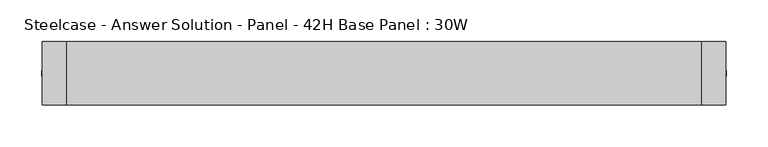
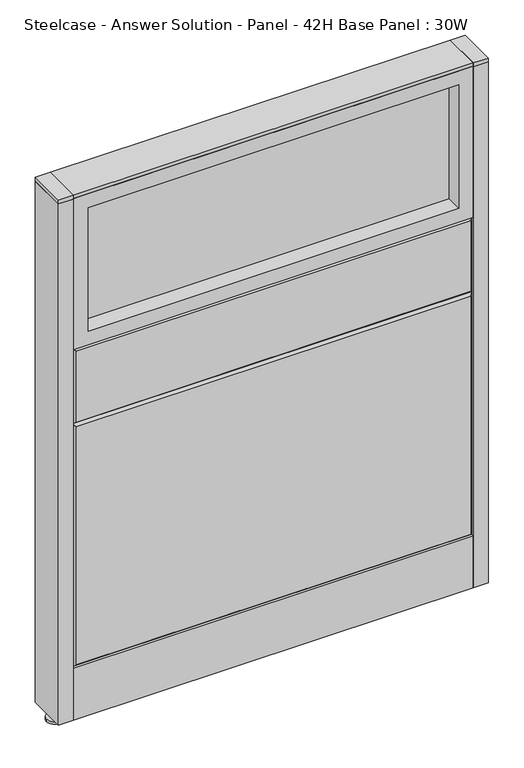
"""IFC4 building model written with IfcOpenShell, lengths in millimetres: furniture geometry, Steelcase - Answer Solution - Panel - 42H Base Panel : 30W."""

import ifcopenshell
import ifcopenshell.guid

model = None  # the IFC model being written
_history = None  # IfcOwnerHistory: only IFC2X3 demands one
_inside = {}  # id of a spatial element -> (the spatial element, [elements in it])
_under = {}  # id of a project, library or spatial element -> (it, [spatial elements below it])
_declared = {}  # id of a project -> (the project, [libraries it declares])
_typed = {}  # id of a type object -> (the type object, [elements of that type])
_made_of = {}  # id of a material, layer set ... -> (it, [elements and type objects made of it])


def new_model(schema):
    """Start an empty IFC model of exactly this schema.

    Asked for "IFC4X3", IfcOpenShell would pick the latest addendum, in which some entities
    have other attributes; the version numbers below select the first issue.
    IFC2X3 requires an IfcOwnerHistory on every rooted entity: one is made here for all.
    """
    global model, _history
    if schema == "IFC4X3":
        model = ifcopenshell.file(schema_version=(4, 3, 0, 0))
    else:
        model = ifcopenshell.file(schema=schema)
    _inside.clear()
    _under.clear()
    _declared.clear()
    _typed.clear()
    _made_of.clear()
    _history = None
    if model.schema == "IFC2X3":
        org = make("IfcOrganization", Name="unknown")
        user = make(
            "IfcPersonAndOrganization",
            ThePerson=make("IfcPerson", FamilyName="unknown"),
            TheOrganization=org,
        )
        app = make(
            "IfcApplication",
            ApplicationDeveloper=org,
            Version="unknown",
            ApplicationFullName="unknown",
            ApplicationIdentifier="unknown",
        )
        _history = make(
            "IfcOwnerHistory",
            OwningUser=user,
            OwningApplication=app,
            ChangeAction="ADDED",
            CreationDate=0,
        )
    return model


def make(cls, **values):
    """One entity of the class cls with the attributes given. An attribute that is None is left unset."""
    return model.create_entity(
        cls, **{name: value for name, value in values.items() if value is not None}
    )


def rooted(cls, **values):
    """An entity with a GlobalId (a new one), such as an element, a storey or a relation."""
    return make(cls, GlobalId=ifcopenshell.guid.new(), OwnerHistory=_history, **values)


def si_unit(unit_type, name, prefix=None):
    """IfcSIUnit, for example si_unit("LENGTHUNIT", "METRE", prefix="MILLI")."""
    return make("IfcSIUnit", UnitType=unit_type, Prefix=prefix, Name=name)


def assignment(units):
    """IfcUnitAssignment: the units of a project."""
    return None if units is None else make("IfcUnitAssignment", Units=units)


def point(xyz):
    """IfcCartesianPoint."""
    return None if xyz is None else make("IfcCartesianPoint", Coordinates=xyz)


def direction(xyz):
    """IfcDirection."""
    return None if xyz is None else make("IfcDirection", DirectionRatios=xyz)


def frame(location, z_axis=None, x_axis=None):
    """IfcAxis2Placement3D, a coordinate frame: its origin and axes. An axis left out is left unset."""
    return make(
        "IfcAxis2Placement3D",
        Location=point(location),
        Axis=direction(z_axis),
        RefDirection=direction(x_axis),
    )


def frame_2d(location, x_axis=None):
    """IfcAxis2Placement2D, a coordinate frame in the plane: its origin and x axis."""
    return make(
        "IfcAxis2Placement2D", Location=point(location), RefDirection=direction(x_axis)
    )


def origin():
    """The frame at (0, 0, 0) with its axes left unset."""
    return frame((0.0, 0.0, 0.0))


def place(relative_to, where):
    """IfcLocalPlacement: puts the frame where relative to a parent placement (None: the world)."""
    return make(
        "IfcLocalPlacement", PlacementRelTo=relative_to, RelativePlacement=where
    )


def context(
    kind, dimensions, precision=None, world=None, true_north=None, identifier=None
):
    """IfcGeometricRepresentationContext, for example the 3D "Model" context."""
    return make(
        "IfcGeometricRepresentationContext",
        ContextIdentifier=identifier,
        ContextType=kind,
        CoordinateSpaceDimension=dimensions,
        Precision=precision,
        WorldCoordinateSystem=world,
        TrueNorth=true_north,
    )


def project(units=None, contexts=None):
    """IfcProject with its units and contexts."""
    return rooted(
        "IfcProject",
        Name="project",
        RepresentationContexts=contexts,
        UnitsInContext=assignment(units),
    )


def spatial(cls, under=None, at=None, **own):
    """A site, building, storey or space (cls), placed at a placement, below another one or the project."""
    s = rooted(cls, ObjectPlacement=at, **own)
    if under is not None:
        _under.setdefault(under.id(), (under, []))[1].append(s)
    return s


def polyline(points):
    """IfcPolyline through the points."""
    return make("IfcPolyline", Points=[point(p) for p in points])


def circle_curve(where, radius):
    """IfcCircle in the frame where."""
    return make("IfcCircle", Position=where, Radius=radius)


def trimmed(basis, trim1, trim2, sense, master):
    """IfcTrimmedCurve: the piece of a basis curve between two trims."""
    return make(
        "IfcTrimmedCurve",
        BasisCurve=basis,
        Trim1=trim1,
        Trim2=trim2,
        SenseAgreement=sense,
        MasterRepresentation=master,
    )


def segment(curve, same_sense, transition):
    """IfcCompositeCurveSegment."""
    return make(
        "IfcCompositeCurveSegment",
        Transition=transition,
        SameSense=same_sense,
        ParentCurve=curve,
    )


def composite_curve(segments, self_intersect=None):
    """IfcCompositeCurve: segments joined end to end."""
    return make("IfcCompositeCurve", Segments=segments, SelfIntersect=self_intersect)


def outline(outer, holes=None, kind="AREA"):
    """IfcArbitraryClosedProfileDef: a profile drawn as a closed curve; with holes, ...WithVoids."""
    if holes is None:
        return make("IfcArbitraryClosedProfileDef", ProfileType=kind, OuterCurve=outer)
    return make(
        "IfcArbitraryProfileDefWithVoids",
        ProfileType=kind,
        OuterCurve=outer,
        InnerCurves=holes,
    )


def extrude(swept, where, along, depth):
    """IfcExtrudedAreaSolid: the profile swept, set in the frame where, extruded along a direction by depth."""
    return make(
        "IfcExtrudedAreaSolid",
        SweptArea=swept,
        Position=where,
        ExtrudedDirection=direction(along),
        Depth=depth,
    )


def faces_of(points, faces, orient=None, outer=None):
    """IfcFace entities. A face is a list of loops; a loop is a list of indices into points, from 0.

    orient and outer hold one flag for each loop. By default every Orientation is true, the
    first loop of a face is its IfcFaceOuterBound and the others are IfcFaceBound.
    """
    made = []
    for i, loops in enumerate(faces):
        bounds = []
        for j, loop in enumerate(loops):
            is_outer = j == 0 if outer is None else outer[i][j]
            bounds.append(
                make(
                    "IfcFaceOuterBound" if is_outer else "IfcFaceBound",
                    Bound=make("IfcPolyLoop", Polygon=[points[k] for k in loop]),
                    Orientation=True if orient is None else orient[i][j],
                )
            )
        made.append(make("IfcFace", Bounds=bounds))
    return made


def faceted_brep(points, faces, orient=None, outer=None, voids=None):
    """IfcFacetedBrep: a solid bounded by flat faces; with voids (closed shells), ...WithVoids."""
    shared = [point(p) for p in points]
    hull = make("IfcClosedShell", CfsFaces=faces_of(shared, faces, orient, outer))
    if voids is None:
        return make("IfcFacetedBrep", Outer=hull)
    return make(
        "IfcFacetedBrepWithVoids",
        Outer=hull,
        Voids=[
            make(cls, CfsFaces=faces_of(shared, fs, o, b)) for cls, fs, o, b in voids
        ],
    )


def shape(context_of_items, identifier, shape_type, items):
    """IfcShapeRepresentation: the items that make up one representation, for example the "Body"."""
    return make(
        "IfcShapeRepresentation",
        ContextOfItems=context_of_items,
        RepresentationIdentifier=identifier,
        RepresentationType=shape_type,
        Items=items,
    )


def source(mapping_origin, context_of_items, identifier, shape_type, items):
    """IfcRepresentationMap: a shape defined once, which mapped items show again and again."""
    return make(
        "IfcRepresentationMap",
        MappingOrigin=mapping_origin,
        MappedRepresentation=shape(context_of_items, identifier, shape_type, items),
    )


def transform(
    local_origin,
    x_axis=None,
    y_axis=None,
    z_axis=None,
    scale=None,
    scale2=None,
    scale3=None,
    uniform=True,
):
    """IfcCartesianTransformationOperator3D, or its non-uniform kind. x_axis, y_axis, z_axis: its Axis1, 2, 3."""
    if uniform:
        return make(
            "IfcCartesianTransformationOperator3D",
            Axis1=direction(x_axis),
            Axis2=direction(y_axis),
            LocalOrigin=point(local_origin),
            Scale=scale,
            Axis3=direction(z_axis),
        )
    return make(
        "IfcCartesianTransformationOperator3DnonUniform",
        Axis1=direction(x_axis),
        Axis2=direction(y_axis),
        LocalOrigin=point(local_origin),
        Scale=scale,
        Axis3=direction(z_axis),
        Scale2=scale2,
        Scale3=scale3,
    )


def mapped(mapping_source, mapping_target):
    """IfcMappedItem: shows the shape of a source again, moved by a transform."""
    return make(
        "IfcMappedItem", MappingSource=mapping_source, MappingTarget=mapping_target
    )


def made_of(thing, what):
    """Note that an element or type object is made of a material, layer set ...; save() writes the relation."""
    if what is not None:
        _made_of.setdefault(what.id(), (what, []))[1].append(thing)
    return thing


def element(
    cls,
    number,
    at=None,
    inside=None,
    cuts=None,
    type_object=None,
    material=None,
    context=None,
    identifier="Body",
    shape_type=None,
    held_by="IfcProductDefinitionShape",
    body=None,
    shapes=None,
    **own,
):
    """One element of the class cls, such as IfcWall. Its Tag is "e" and its number.

    at: its placement. inside: the storey or other place that contains it. cuts: it is an
    opening in that element (IfcRelVoidsElement). A single representation is given by context,
    identifier, shape_type and body (its items); several are given by shapes. held_by: the class
    of the entity that holds the representations. save() writes the other relations.
    """
    e = rooted(cls, Tag="e%d" % number, ObjectPlacement=at, **own)
    if body is not None:
        shapes = [shape(context, identifier, shape_type, body)]
    if shapes is not None:
        e.Representation = make(held_by, Representations=shapes)
    if inside is not None:
        _inside.setdefault(inside.id(), (inside, []))[1].append(e)
    if cuts is not None:
        rooted(
            "IfcRelVoidsElement", RelatingBuildingElement=cuts, RelatedOpeningElement=e
        )
    if type_object is not None:
        _typed.setdefault(type_object.id(), (type_object, []))[1].append(e)
    return made_of(e, material)


def aggregate(whole, parts):
    """IfcRelAggregates: a whole, such as a stair, and the parts it consists of."""
    return rooted("IfcRelAggregates", RelatingObject=whole, RelatedObjects=parts)


def save(model, path):
    """Write the relations noted so far, then the file.

    IfcRelAggregates (storeys below a building ...), IfcRelContainedInSpatialStructure (elements
    in a storey), IfcRelDefinesByType, IfcRelAssociatesMaterial and IfcRelDeclares: one each for
    every whole, place, type object, material and project.
    """
    for whole, parts in _under.values():
        aggregate(whole, parts)
    for where, things in _inside.values():
        rooted(
            "IfcRelContainedInSpatialStructure",
            RelatedElements=things,
            RelatingStructure=where,
        )
    for kind, things in _typed.values():
        rooted("IfcRelDefinesByType", RelatedObjects=things, RelatingType=kind)
    for what, things in _made_of.values():
        rooted("IfcRelAssociatesMaterial", RelatedObjects=things, RelatingMaterial=what)
    for by, libraries in _declared.values():
        rooted("IfcRelDeclares", RelatingContext=by, RelatedDefinitions=libraries)
    model.write(path)


def steelcase_answer_solution_panel_42h_base_panel_30w_81901d30(model_context):
    return source(origin(), model_context, "Body", "SolidModel", [
        extrude(outline(composite_curve([segment(trimmed(circle_curve(frame_2d((395.224, 0.0039657)), 5.08), [point((400.304, 0.0039657))], [point((390.144, 0.0039657))], False, "CARTESIAN"), True, "CONTINUOUS"), segment(trimmed(circle_curve(frame_2d((395.224, 0.0039657)), 5.08), [point((390.144, 0.0039657))], [point((400.304, 0.0039657))], False, "CARTESIAN"), True, "CONTINUOUS")], self_intersect=False)), frame((0.0, 0.0, 5.0799671), z_axis=(0.0, 0.0, 1.0), x_axis=(1.0, 0.0, 0.0)), (0.0, 0.0, 1.0), 10.414),
        extrude(outline(composite_curve([segment(trimmed(circle_curve(frame_2d((395.224, 0.0039657)), 15.24), [point((410.464, 0.0039657))], [point((379.984, 0.0039657))], False, "CARTESIAN"), True, "CONTINUOUS"), segment(trimmed(circle_curve(frame_2d((395.224, 0.0039657)), 15.24), [point((379.984, 0.0039657))], [point((410.464, 0.0039657))], False, "CARTESIAN"), True, "CONTINUOUS")], self_intersect=False)), frame((0.0, 0.0, -3.29e-05), z_axis=(0.0, 0.0, 1.0), x_axis=(1.0, 0.0, 0.0)), (0.0, 0.0, 1.0), 5.08),
        extrude(outline(polyline([(409.575, 38.1039851), (409.575, -38.0960149), (381.0, -38.0960149), (381.0, 38.1039851), (409.575, 38.1039851)])), frame((0.0, 0.0, 1065.8348), z_axis=(0.0, 0.0, 1.0), x_axis=(1.0, 0.0, 0.0)), (0.0, 0.0, 1.0), 7.3151671),
        extrude(outline(polyline([(409.575, 38.1039851), (409.575, -38.0960149), (381.0, -38.0960149), (381.0, 38.1039851), (409.575, 38.1039851)])), frame((0.0, 0.0, 15.4939671), z_axis=(0.0, 0.0, 1.0), x_axis=(1.0, 0.0, 0.0)), (0.0, 0.0, 1.0), 1050.3408329),
        extrude(outline(composite_curve([segment(trimmed(circle_curve(frame_2d((-395.224, 0.0039657)), 5.08), [point((-400.304, 0.0039657))], [point((-390.144, 0.0039657))], False, "CARTESIAN"), True, "CONTINUOUS"), segment(trimmed(circle_curve(frame_2d((-395.224, 0.0039657)), 5.08), [point((-390.144, 0.0039657))], [point((-400.304, 0.0039657))], False, "CARTESIAN"), True, "CONTINUOUS")], self_intersect=False)), frame((0.0, 0.0, 5.0799671), z_axis=(0.0, 0.0, 1.0), x_axis=(1.0, 0.0, 0.0)), (0.0, 0.0, 1.0), 10.414),
        extrude(outline(composite_curve([segment(trimmed(circle_curve(frame_2d((-395.224, 0.0039657)), 15.24), [point((-410.464, 0.0039657))], [point((-379.984, 0.0039657))], False, "CARTESIAN"), True, "CONTINUOUS"), segment(trimmed(circle_curve(frame_2d((-395.224, 0.0039657)), 15.24), [point((-379.984, 0.0039657))], [point((-410.464, 0.0039657))], False, "CARTESIAN"), True, "CONTINUOUS")], self_intersect=False)), frame((0.0, 0.0, -3.29e-05), z_axis=(0.0, 0.0, 1.0), x_axis=(1.0, 0.0, 0.0)), (0.0, 0.0, 1.0), 5.08),
        extrude(outline(polyline([(-409.575, 38.1039851), (-381.0, 38.1039851), (-381.0, -38.0960149), (-409.575, -38.0960149), (-409.575, 38.1039851)])), frame((0.0, 0.0, 1065.8348), z_axis=(0.0, 0.0, 1.0), x_axis=(1.0, 0.0, 0.0)), (0.0, 0.0, 1.0), 7.3151671),
        extrude(outline(polyline([(-409.575, 38.1039851), (-381.0, 38.1039851), (-381.0, -38.0960149), (-409.575, -38.0960149), (-409.575, 38.1039851)])), frame((0.0, 0.0, 15.4939671), z_axis=(0.0, 0.0, 1.0), x_axis=(1.0, 0.0, 0.0)), (0.0, 0.0, 1.0), 1050.3408329),
        extrude(outline(polyline([(-353.06, 6.346049), (353.06, 6.346049), (353.06, -6.353951), (-353.06, -6.353951), (-353.06, 6.346049)])), frame((0.0, 0.0, 789.94), z_axis=(0.0, 0.0, 1.0), x_axis=(1.0, 0.0, 0.0)), (0.0, 0.0, 1.0), 248.92),
        extrude(outline(polyline([(1066.8, -381.0), (762.0, -381.0), (762.0, 381.0), (1066.8, 381.0), (1066.8, -381.0)]), holes=[polyline([(1038.86, -353.06), (1038.86, 353.06), (789.94, 353.06), (789.94, -353.06), (1038.86, -353.06)])]), frame((0.0, -38.103951, 0.0), z_axis=(0.0, 1.0, 0.0), x_axis=(0.0, 0.0, 1.0)), (0.0, 0.0, 1.0), 76.2),
        faceted_brep([(-376.174, 38.1635011, 757.174), (376.174, 38.1635011, 757.174), (376.174, 38.1635011, 614.426), (-376.174, 38.1635011, 614.426), (-381.0, 33.3375011, 762.0), (-381.0, 33.3375011, 609.6), (381.0, 33.3375011, 609.6), (381.0, 33.3375011, 762.0)], [[[0, 1, 2, 3]], [[4, 5, 6, 7]], [[4, 7, 1, 0]], [[7, 6, 2, 1]], [[6, 5, 3, 2]], [[5, 4, 0, 3]]]),
        faceted_brep([(-376.174, 38.1635011, 604.774), (376.174, 38.1635011, 604.774), (376.174, 38.1635011, 125.476), (-376.174, 38.1635011, 125.476), (-381.0, 33.3375011, 609.6), (-381.0, 33.3375011, 120.65), (381.0, 33.3375011, 120.65), (381.0, 33.3375011, 609.6)], [[[0, 1, 2, 3]], [[4, 5, 6, 7]], [[4, 7, 1, 0]], [[7, 6, 2, 1]], [[6, 5, 3, 2]], [[5, 4, 0, 3]]]),
        extrude(outline(polyline([(353.06, -6.346049), (-353.06, -6.346049), (-353.06, 6.353951), (353.06, 6.353951), (353.06, -6.346049)])), frame((0.0, 0.0, 789.94), z_axis=(0.0, 0.0, 1.0), x_axis=(1.0, 0.0, 0.0)), (0.0, 0.0, 1.0), 248.92),
        extrude(outline(polyline([(1066.8, 381.0), (1066.8, -381.0), (762.0, -381.0), (762.0, 381.0), (1066.8, 381.0)]), holes=[polyline([(1038.86, 353.06), (789.94, 353.06), (789.94, -353.06), (1038.86, -353.06), (1038.86, 353.06)])]), frame((0.0, -38.096049, 0.0), z_axis=(0.0, 1.0, 0.0), x_axis=(0.0, 0.0, 1.0)), (0.0, 0.0, 1.0), 76.2),
        faceted_brep([(376.174, -38.1635011, 757.174), (-376.174, -38.1635011, 757.174), (-376.174, -38.1635011, 614.426), (376.174, -38.1635011, 614.426), (381.0, -33.3375011, 762.0), (381.0, -33.3375011, 609.6), (-381.0, -33.3375011, 609.6), (-381.0, -33.3375011, 762.0)], [[[0, 1, 2, 3]], [[4, 5, 6, 7]], [[4, 7, 1, 0]], [[7, 6, 2, 1]], [[6, 5, 3, 2]], [[5, 4, 0, 3]]]),
        faceted_brep([(376.174, -38.1635011, 604.774), (-376.174, -38.1635011, 604.774), (-376.174, -38.1635011, 125.476), (376.174, -38.1635011, 125.476), (381.0, -33.3375011, 609.6), (381.0, -33.3375011, 120.65), (-381.0, -33.3375011, 120.65), (-381.0, -33.3375011, 609.6)], [[[0, 1, 2, 3]], [[4, 5, 6, 7]], [[4, 7, 1, 0]], [[7, 6, 2, 1]], [[6, 5, 3, 2]], [[5, 4, 0, 3]]]),
        extrude(outline(polyline([(381.0, 38.1000194), (381.0, -38.1000194), (-381.0, -38.1000194), (-381.0, 38.1000194), (381.0, 38.1000194)])), frame((0.0, 0.0, 1066.8), z_axis=(0.0, 0.0, 1.0), x_axis=(1.0, 0.0, 0.0)), (0.0, 0.0, 1.0), 6.35),
        extrude(outline(polyline([(25.4000011, 119.8575157), (25.4000011, 120.65), (38.1000194, 120.65), (38.1000194, 15.494), (37.3075215, 15.494), (37.3075215, 119.8575157), (25.4000011, 119.8575157)])), frame((-381.0, 0.0, 0.0), z_axis=(1.0, 0.0, 0.0), x_axis=(0.0, 1.0, 0.0)), (0.0, 0.0, 1.0), 762.0),
        extrude(outline(polyline([(-25.4000011, 119.8575157), (-37.3075215, 119.8575157), (-37.3075215, 15.494), (-38.1000194, 15.494), (-38.1000194, 120.65), (-25.4000011, 120.65), (-25.4000011, 119.8575157)])), frame((-381.0, 0.0, 0.0), z_axis=(1.0, 0.0, 0.0), x_axis=(0.0, 1.0, 0.0)), (0.0, 0.0, 1.0), 762.0),
    ])


if __name__ == "__main__":
    model = new_model("IFC4")
    model_context = context("Model", 3, world=origin())
    ifc_project = project(units=[si_unit("LENGTHUNIT", "METRE", prefix="MILLI")], contexts=[model_context])
    site = spatial("IfcSite", under=ifc_project)
    building = spatial("IfcBuilding", under=site)
    placement = place(None, origin())
    steelcase_answer_solution_panel_42h_base_panel_30w_shape = steelcase_answer_solution_panel_42h_base_panel_30w_81901d30(model_context)
    element("IfcFurniture", 1, ObjectType="Steelcase - Answer Solution - Panel - 42H Base Panel : 30W", at=placement, inside=building, context=model_context, shape_type="MappedRepresentation", body=[
        mapped(steelcase_answer_solution_panel_42h_base_panel_30w_shape, transform((0.0, 0.0, 0.0), x_axis=(1.0, 0.0, 0.0), y_axis=(0.0, 1.0, 0.0), z_axis=(0.0, 0.0, 1.0))),
    ])
    save(model, "model.ifc")
